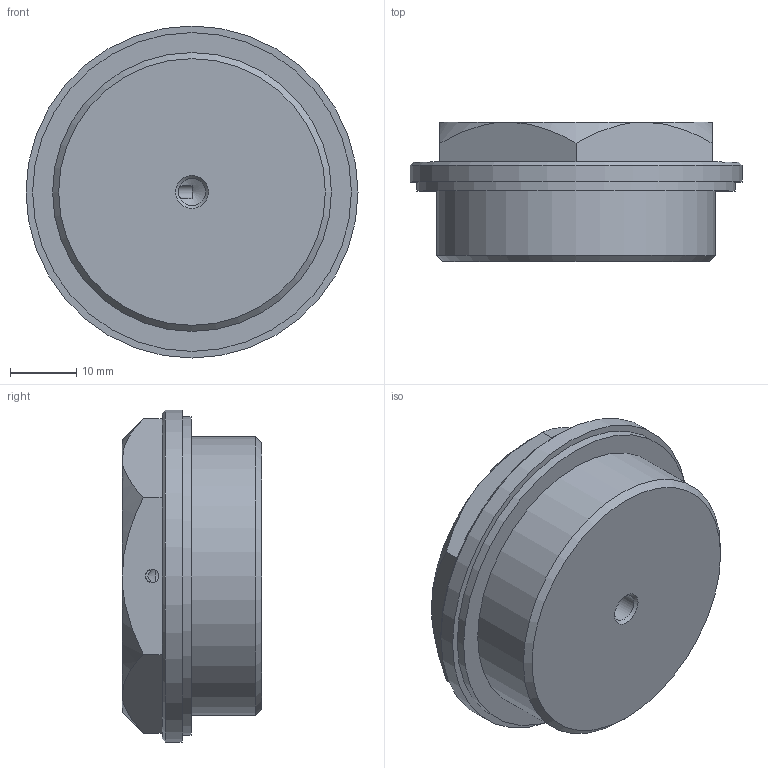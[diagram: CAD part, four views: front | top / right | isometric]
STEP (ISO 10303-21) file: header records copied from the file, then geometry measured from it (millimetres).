
FILE_DESCRIPTION( ( 'STEP AP203' ), '1' );
FILE_NAME( 'C:/Temp/Ganter_Step_05_03_2020/data/3_5/gn742/gn742_2/Threaded plug GN 742-50-M42x1,5-OSS-2.stp', '2020-03-12T13:39:49', ( 'License CC BY-ND 4.0' ), ( 'CADENAS' ), ' ', 'PARTsolutions', ' ' );
FILE_SCHEMA( ( 'CONFIG_CONTROL_DESIGN' ) );
Length unit declared in the file: millimetre
Products named in the file (1): _Threaded plug GN 742-50-M42x1,5-OSS-2
Bounding box: 50 x 21 x 50 mm (x, y, z)
Volume: 31336.4 mm3; surface area: 6964.8 mm2
Topology: 1 solids, 1 shells, 27 faces, 59 edges, 36 vertices
Faces by surface type: plane 12, cone 10, cylinder 5
Full cylindrical faces by diameter (mm): 2 x1, 4.134 x1, 42 x1, 48 x1, 50 x1
Entity records: 806 total; most frequent: CARTESIAN_POINT 229, DIRECTION 108, ORIENTED_EDGE 96, EDGE_CURVE 48, AXIS2_PLACEMENT_3D 47, EDGE_LOOP 40, VERTEX_POINT 34, FACE_OUTER_BOUND 32
